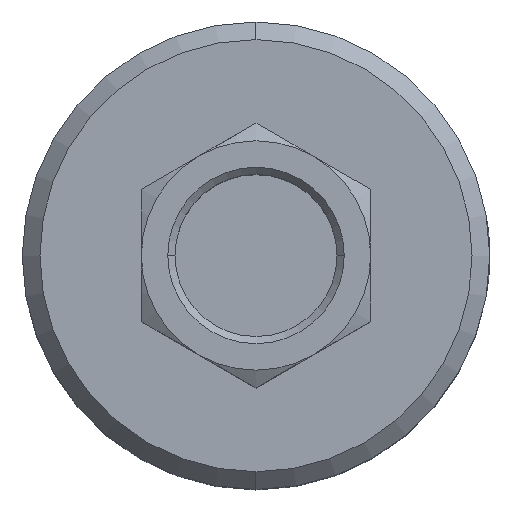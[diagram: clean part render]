
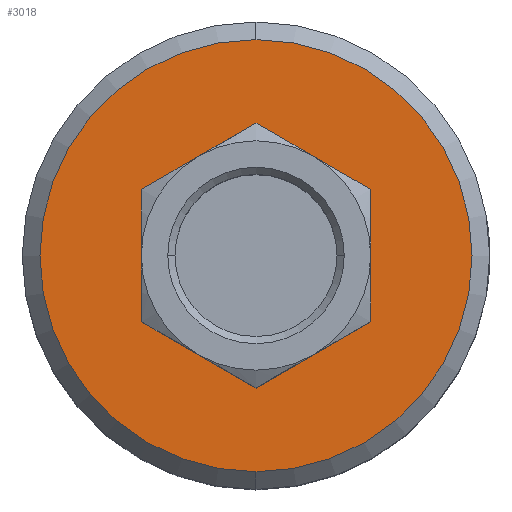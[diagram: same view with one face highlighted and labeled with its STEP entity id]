
A CAD part, top view. The second image highlights one B-rep face of the part: STEP entity #3018.
In plain terms, the highlighted planar face has unit normal (0, 0, 1).
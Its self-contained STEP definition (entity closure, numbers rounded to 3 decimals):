
#20 = CARTESIAN_POINT ( 'NONE',  ( -13., 15.611, 88. ) ) ;
#485 = CARTESIAN_POINT ( 'NONE',  ( 0., 24.5, 88. ) ) ;
#748 = EDGE_CURVE ( 'NONE', #3638, #6461, #5770, .T. ) ;
#760 = ORIENTED_EDGE ( 'NONE', *, *, #5016, .F. ) ;
#774 = CIRCLE ( 'NONE', #8338, 24.5 ) ;
#881 = VERTEX_POINT ( 'NONE', #3568 ) ;
#1003 = EDGE_CURVE ( 'NONE', #9507, #1301, #7015, .T. ) ;
#1066 = LINE ( 'NONE', #20, #6286 ) ;
#1086 = LINE ( 'NONE', #3396, #3272 ) ;
#1142 = FACE_OUTER_BOUND ( 'NONE', #7941, .T. ) ;
#1168 = VERTEX_POINT ( 'NONE', #5856 ) ;
#1301 = VERTEX_POINT ( 'NONE', #3444 ) ;
#1327 = DIRECTION ( 'NONE',  ( 0., 0., -1. ) ) ;
#1357 = ORIENTED_EDGE ( 'NONE', *, *, #7626, .F. ) ;
#1465 = VECTOR ( 'NONE', #9062, 1000. ) ;
#1674 = EDGE_CURVE ( 'NONE', #1301, #881, #5975, .T. ) ;
#1752 = CIRCLE ( 'NONE', #7255, 24.5 ) ;
#2547 = VECTOR ( 'NONE', #5427, 1000. ) ;
#2618 = DIRECTION ( 'NONE',  ( -0.866, 0.5, 0. ) ) ;
#2728 = ORIENTED_EDGE ( 'NONE', *, *, #1674, .F. ) ;
#2736 = VECTOR ( 'NONE', #2618, 1000. ) ;
#2744 = DIRECTION ( 'NONE',  ( 0., 1., 0. ) ) ;
#2951 = VECTOR ( 'NONE', #7959, 1000. ) ;
#3018 = ADVANCED_FACE ( 'NONE', ( #3096, #1142 ), #8504, .F. ) ;
#3096 = FACE_BOUND ( 'NONE', #9526, .T. ) ;
#3272 = VECTOR ( 'NONE', #8595, 1000. ) ;
#3294 = VERTEX_POINT ( 'NONE', #3404 ) ;
#3396 = CARTESIAN_POINT ( 'NONE',  ( 13., 15.611, 88. ) ) ;
#3404 = CARTESIAN_POINT ( 'NONE',  ( 0., -24.5, 88. ) ) ;
#3444 = CARTESIAN_POINT ( 'NONE',  ( 0., 15.011, 88. ) ) ;
#3472 = EDGE_CURVE ( 'NONE', #881, #1168, #1066, .T. ) ;
#3568 = CARTESIAN_POINT ( 'NONE',  ( -13., 7.506, 88. ) ) ;
#3638 = VERTEX_POINT ( 'NONE', #8361 ) ;
#3685 = ORIENTED_EDGE ( 'NONE', *, *, #748, .F. ) ;
#3953 = CARTESIAN_POINT ( 'NONE',  ( -13., -7.506, 88. ) ) ;
#4033 = ORIENTED_EDGE ( 'NONE', *, *, #3472, .F. ) ;
#4283 = DIRECTION ( 'NONE',  ( 0., 0., -1. ) ) ;
#4467 = ORIENTED_EDGE ( 'NONE', *, *, #6597, .F. ) ;
#4498 = LINE ( 'NONE', #3953, #2547 ) ;
#4683 = ORIENTED_EDGE ( 'NONE', *, *, #5928, .F. ) ;
#4731 = CARTESIAN_POINT ( 'NONE',  ( 13., 7.506, 88. ) ) ;
#4933 = CARTESIAN_POINT ( 'NONE',  ( 0., 0., 88. ) ) ;
#4956 = ORIENTED_EDGE ( 'NONE', *, *, #1003, .F. ) ;
#5016 = EDGE_CURVE ( 'NONE', #6461, #9507, #1086, .T. ) ;
#5427 = DIRECTION ( 'NONE',  ( 0.866, -0.5, 0. ) ) ;
#5671 = DIRECTION ( 'NONE',  ( 0., 1., 0. ) ) ;
#5770 = LINE ( 'NONE', #6150, #1465 ) ;
#5856 = CARTESIAN_POINT ( 'NONE',  ( -13., -7.506, 88. ) ) ;
#5928 = EDGE_CURVE ( 'NONE', #1168, #3638, #4498, .T. ) ;
#5975 = LINE ( 'NONE', #8412, #2951 ) ;
#6150 = CARTESIAN_POINT ( 'NONE',  ( 0., -15.011, 88. ) ) ;
#6286 = VECTOR ( 'NONE', #8081, 1000. ) ;
#6336 = DIRECTION ( 'NONE',  ( 0., 0., -1. ) ) ;
#6461 = VERTEX_POINT ( 'NONE', #7559 ) ;
#6597 = EDGE_CURVE ( 'NONE', #7177, #3294, #774, .T. ) ;
#7015 = LINE ( 'NONE', #8455, #2736 ) ;
#7101 = CARTESIAN_POINT ( 'NONE',  ( 0., 15.611, 88. ) ) ;
#7177 = VERTEX_POINT ( 'NONE', #485 ) ;
#7255 = AXIS2_PLACEMENT_3D ( 'NONE', #4933, #1327, #2744 ) ;
#7559 = CARTESIAN_POINT ( 'NONE',  ( 13., -7.506, 88. ) ) ;
#7626 = EDGE_CURVE ( 'NONE', #3294, #7177, #1752, .T. ) ;
#7805 = DIRECTION ( 'NONE',  ( -1., 0., 0. ) ) ;
#7941 = EDGE_LOOP ( 'NONE', ( #4467, #1357 ) ) ;
#7959 = DIRECTION ( 'NONE',  ( -0.866, -0.5, 0. ) ) ;
#8081 = DIRECTION ( 'NONE',  ( 0., -1., 0. ) ) ;
#8338 = AXIS2_PLACEMENT_3D ( 'NONE', #9302, #4283, #5671 ) ;
#8361 = CARTESIAN_POINT ( 'NONE',  ( 0., -15.011, 88. ) ) ;
#8412 = CARTESIAN_POINT ( 'NONE',  ( 0., 15.011, 88. ) ) ;
#8455 = CARTESIAN_POINT ( 'NONE',  ( 13., 7.506, 88. ) ) ;
#8504 = PLANE ( 'NONE',  #8733 ) ;
#8595 = DIRECTION ( 'NONE',  ( 0., 1., 0. ) ) ;
#8733 = AXIS2_PLACEMENT_3D ( 'NONE', #7101, #6336, #7805 ) ;
#9062 = DIRECTION ( 'NONE',  ( 0.866, 0.5, 0. ) ) ;
#9302 = CARTESIAN_POINT ( 'NONE',  ( 0., 0., 88. ) ) ;
#9507 = VERTEX_POINT ( 'NONE', #4731 ) ;
#9526 = EDGE_LOOP ( 'NONE', ( #4033, #2728, #4956, #760, #3685, #4683 ) ) ;
